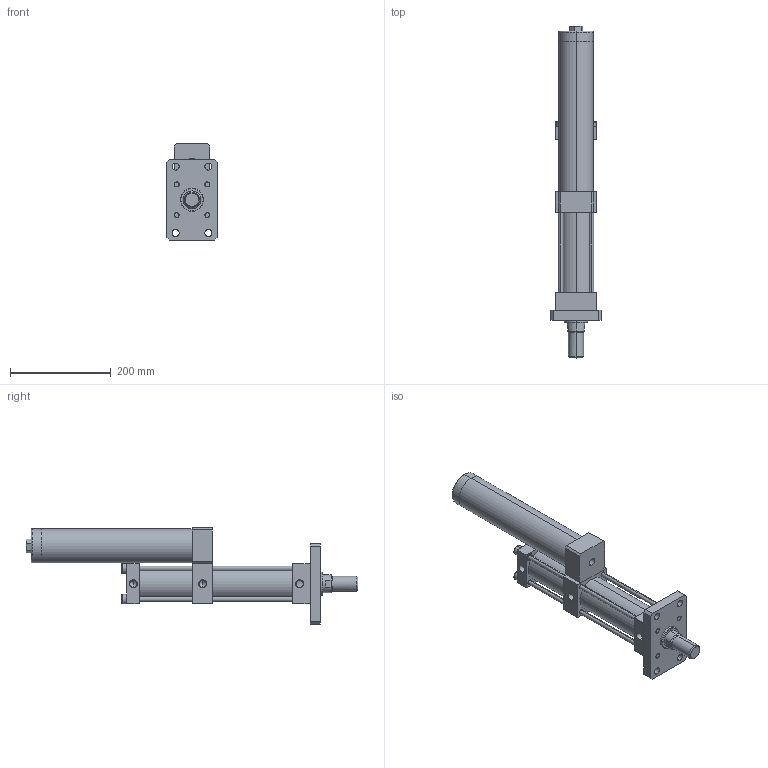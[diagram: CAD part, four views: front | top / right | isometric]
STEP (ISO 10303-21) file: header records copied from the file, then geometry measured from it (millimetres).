
FILE_DESCRIPTION (( 'STEP AP203' ), '1' );
FILE_NAME ('MPT-63-100-5-1T.STEP', '2016-03-17T09:39:31', ( 'WIN' ), ( '' ), 'SwSTEP 2.0', 'SolidWorks 2014', '' );
FILE_SCHEMA (( 'CONFIG_CONTROL_DESIGN' ));
Length unit declared in the file: millimetre
Products named in the file (1): MPT-63-100-5-1T
Bounding box: 100 x 660 x 191 mm (x, y, z)
Volume: 2114410 mm3; surface area: 430294.1 mm2
Topology: 14 solids, 14 shells, 251 faces, 573 edges, 360 vertices
Faces by surface type: plane 131, cylinder 84, cone 24, torus 12
Entity records: 7235 total; most frequent: DIRECTION 1304, CARTESIAN_POINT 1278, ORIENTED_EDGE 1134, EDGE_CURVE 567, AXIS2_PLACEMENT_3D 496, VERTEX_POINT 360, LINE 312, VECTOR 312
